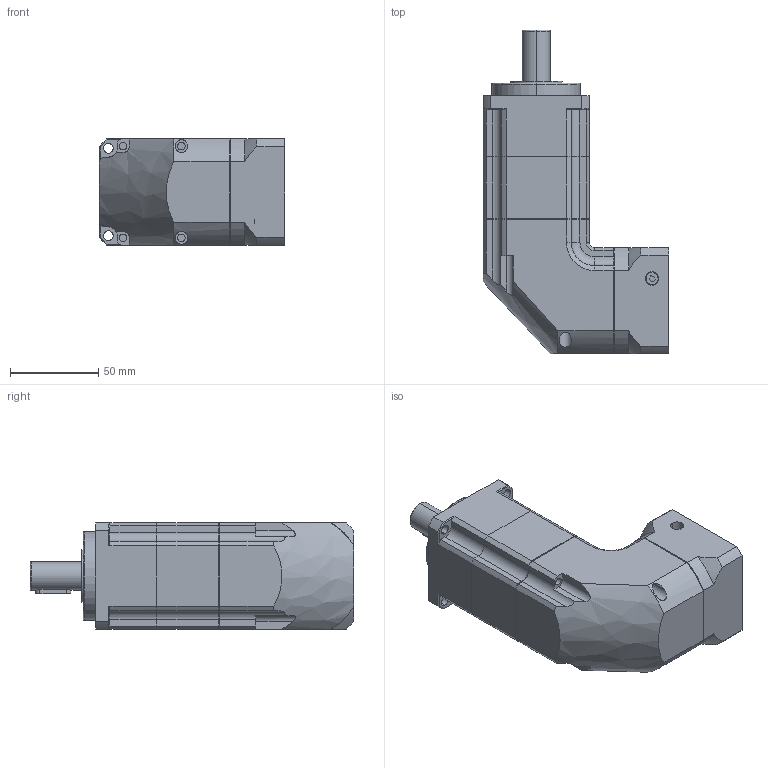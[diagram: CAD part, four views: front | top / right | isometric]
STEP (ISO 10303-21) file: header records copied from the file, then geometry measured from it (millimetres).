
FILE_DESCRIPTION (( 'STEP AP203' ), '1' );
FILE_NAME ('PDZJ60-L2-20-57-6.35x31.STEP', '2020-12-04T03:22:26', ( 'USER-' ), ( 'MS' ), 'SwSTEP 2.0', 'SolidWorks 2018', '' );
FILE_SCHEMA (( 'CONFIG_CONTROL_DESIGN' ));
Length unit declared in the file: millimetre
Products named in the file (8): __________-M4__12^PDZJ60-L2(2)_PDZJ60-L2; ______ 5x5x20^PDZJ60-L2(2)_PDZJ60-L2; PD60_______________72T^PDZJ60-L2(2)_PDZJ60-L2; PDR60__________^PDZJ60-L2(2)_PDZJ60-L2; PD60_____________72T^PDZJ60-L2(2)_PDZJ60-L2; PDZJ60-L2-20-57-6.35x31; PDR60____________^PDZJ60-L2(2)_PDZJ60-L2; PD60____________^PDZJ60-L2(2)_PDZJ60-L2
Assembly tree (7 placements, depth 2):
  PDZJ60-L2-20-57-6.35x31
    PD60_____________72T^PDZJ60-L2(2)_PDZJ60-L2
    PDR60____________^PDZJ60-L2(2)_PDZJ60-L2
    PD60____________^PDZJ60-L2(2)_PDZJ60-L2
    __________-M4__12^PDZJ60-L2(2)_PDZJ60-L2
    ______ 5x5x20^PDZJ60-L2(2)_PDZJ60-L2
    PD60_______________72T^PDZJ60-L2(2)_PDZJ60-L2
    PDR60__________^PDZJ60-L2(2)_PDZJ60-L2
Bounding box: 105 x 182.9 x 60 mm (x, y, z)
Volume: 565072.7 mm3; surface area: 88855 mm2
Topology: 7 solids, 7 shells, 431 faces, 1060 edges, 653 vertices
Faces by surface type: cylinder 182, plane 152, cone 78, torus 14, sphere 4, bspline 1
Entity records: 14989 total; most frequent: CARTESIAN_POINT 3879, DIRECTION 2253, ORIENTED_EDGE 2064, EDGE_CURVE 1032, AXIS2_PLACEMENT_3D 875, VERTEX_POINT 653, VECTOR 503, LINE 503
